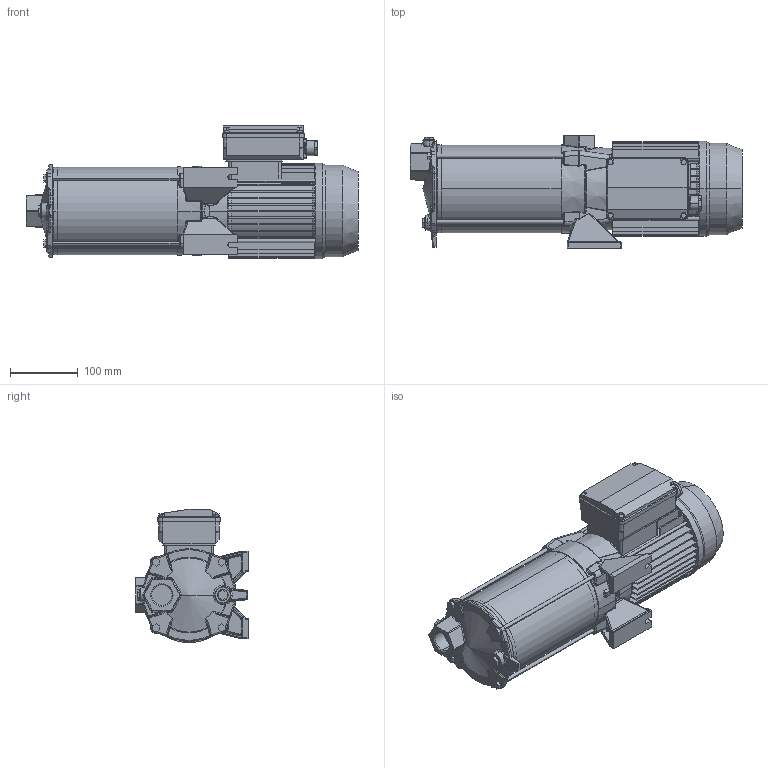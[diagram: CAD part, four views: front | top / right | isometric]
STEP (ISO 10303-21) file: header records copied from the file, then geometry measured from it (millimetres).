
FILE_DESCRIPTION((''),'2;1');
FILE_NAME('COMPACT_AM-15_ASM','2019-09-25T',('rosa'),('"Ebara Pumps Europe +39.444.706811"'),'PRO/ENGINEER BY PARAMETRIC TECHNOLOGY CORPORATION, 2017170','PRO/ENGINEER BY PARAMETRIC TECHNOLOGY CORPORATION, 2017170','');
FILE_SCHEMA(('AUTOMOTIVE_DESIGN { 1 0 10303 214 1 1 1 1 }'));
Length unit declared in the file: millimetre
Products named in the file (7): 80585; MEC_71_PACCO_110_MONOFASE; COPRIMORS_MEC63_E3_SENZA_INT; 2710X_L-176_8; 20998; 40012_M6X215; COMPACT_AM-15_ASM
Assembly tree (9 placements, depth 2):
  COMPACT_AM-15_ASM
    80585
    MEC_71_PACCO_110_MONOFASE
    COPRIMORS_MEC63_E3_SENZA_INT
    2710X_L-176_8
    20998
    40012_M6X215  x4
Bounding box: 490.8 x 166 x 196.8 mm (x, y, z)
Volume: 3253614 mm3; surface area: 621454.1 mm2
Topology: 9 solids, 9 shells, 1373 faces, 3259 edges, 1934 vertices
Faces by surface type: plane 471, cylinder 379, bspline 324, cone 98, torus 64, sphere 37
Entity records: 64459 total; most frequent: CARTESIAN_POINT 25014, ORIENTED_EDGE 6370, DIRECTION 5544, PRESENTATION_STYLE_ASSIGNMENT 3192, STYLED_ITEM 3191, CURVE_STYLE 3185, EDGE_CURVE 3185, AXIS2_PLACEMENT_3D 2154
